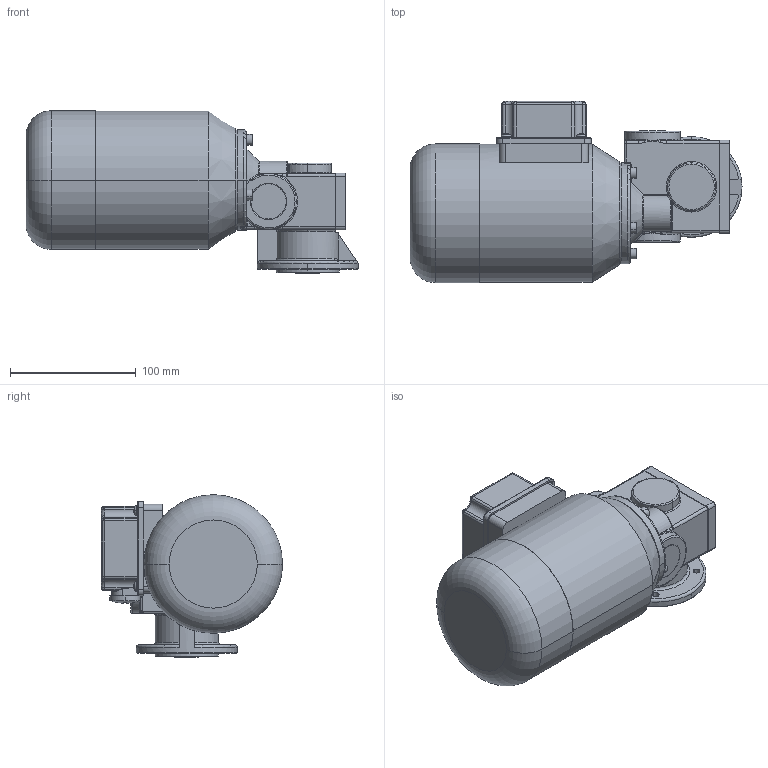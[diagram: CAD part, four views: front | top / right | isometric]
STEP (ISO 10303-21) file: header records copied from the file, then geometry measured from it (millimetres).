
FILE_DESCRIPTION (( 'STEP AP214' ), '1' );
FILE_NAME ('SN6FH_120W_2800Upm_Drehstrom-Motor_A.STEP', '2021-08-10T09:32:27', ( '' ), ( '' ), 'SwSTEP 2.0', 'SolidWorks 2019', '' );
FILE_SCHEMA (( 'AUTOMOTIVE_DESIGN' ));
Length unit declared in the file: millimetre
Products named in the file (10): K_28x4.0; socket head cap screw_iso_ISO 4762 M5 x 16 - 16C; 06FH-W-001_3D-Export; NBR_WDR_20x37x7; socket head cap screw_iso_ISO 4762 M3 x 10 - 10C; SN6FH_120W_2800Upm_Drehstrom-Motor_A; 06FH-G-001_3D-Export; 06-M-066 I 120W_2800Upm; SN6FH_3D-Export; 06F-D-003_3D-Export
Assembly tree (15 placements, depth 3):
  SN6FH_120W_2800Upm_Drehstrom-Motor_A
    SN6FH_3D-Export
      06FH-G-001_3D-Export
      06F-D-003_3D-Export
      06FH-W-001_3D-Export
      K_28x4.0  x2
      NBR_WDR_20x37x7
      socket head cap screw_iso_ISO 4762 M3 x 10 - 10C  x4
      socket head cap screw_iso_ISO 4762 M5 x 16 - 16C  x3
    06-M-066 I 120W_2800Upm
Bounding box: 263.5 x 143.7 x 129 mm (x, y, z)
Volume: 1963670.5 mm3; surface area: 180698.2 mm2
Topology: 15 solids, 15 shells, 925 faces, 2262 edges, 1361 vertices
Faces by surface type: cylinder 279, plane 241, torus 172, cone 151, bspline 54, sphere 28
Entity records: 27976 total; most frequent: CARTESIAN_POINT 8861, DIRECTION 4160, ORIENTED_EDGE 3824, EDGE_CURVE 1912, AXIS2_PLACEMENT_3D 1777, VERTEX_POINT 1188, CIRCLE 1029, EDGE_LOOP 850
